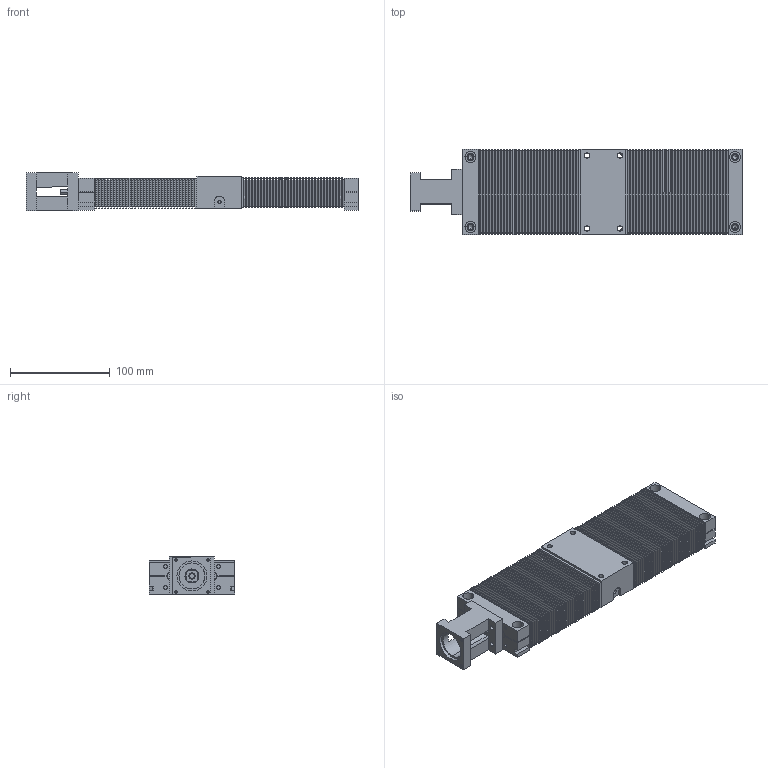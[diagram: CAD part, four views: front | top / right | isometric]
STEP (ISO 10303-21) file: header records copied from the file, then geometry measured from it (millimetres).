
FILE_DESCRIPTION (( 'STEP AP214' ), '1' );
FILE_NAME ('TKC0802B-100-F0-C-潠眢耀郪-20240914.STEP', '2024-09-14T03:40:17', ( '' ), ( '' ), 'SwSTEP 2.0', 'SolidWorks 2020', '' );
FILE_SCHEMA (( 'AUTOMOTIVE_DESIGN' ));
Length unit declared in the file: millimetre
Products named in the file (6): TKC08-100-瑞р欶; tkc08-賑怢; tkc08-100-嘐隅盓傅釱; TKC0802B-100-F0-C-潠眢耀郪-20240914; 鎮湛釱-100W; tkc08-盓傅釱
Assembly tree (6 placements, depth 2):
  TKC0802B-100-F0-C-潠眢耀郪-20240914
    tkc08-盓傅釱
    tkc08-賑怢
    tkc08-100-嘐隅盓傅釱
    TKC08-100-瑞р欶  x2
    鎮湛釱-100W
Bounding box: 332 x 85 x 38 mm (x, y, z)
Volume: 400846.9 mm3; surface area: 252637.2 mm2
Topology: 62 solids, 62 shells, 1752 faces, 3833 edges, 2142 vertices
Faces by surface type: plane 1060, cylinder 387, bspline 169, cone 128, torus 8
Entity records: 53063 total; most frequent: CARTESIAN_POINT 13898, DIRECTION 5846, ORIENTED_EDGE 5770, EDGE_CURVE 2885, AXIS2_PLACEMENT_3D 2138, VERTEX_POINT 1726, VECTOR 1570, LINE 1570
